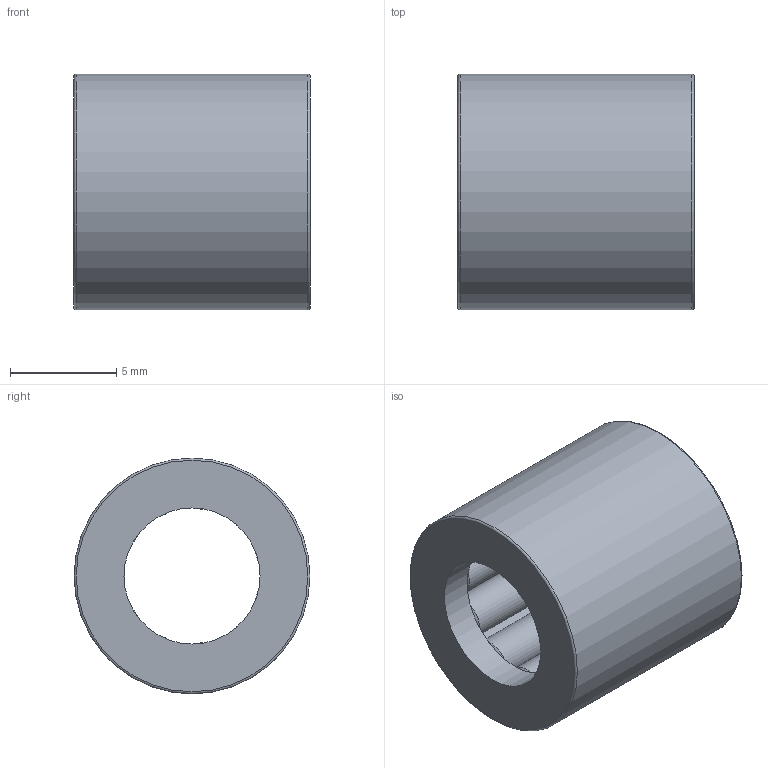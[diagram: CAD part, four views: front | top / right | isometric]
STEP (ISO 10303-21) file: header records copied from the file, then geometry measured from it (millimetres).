
FILE_DESCRIPTION(/* description */ (''),/* implementation_level */ '2;1');
FILE_NAME(/* name */ 'C:\Users\OUREHANEKD\Desktop\Ihlove loziska\F\F--\F6.35x11.11x11.13.stp',/* time_stamp */ '2016-10-11T13:20:50+02:00',/* author */ ('OUREHANEKD'),/* organization */ (''),/* preprocessor_version */ 'ST-DEVELOPER v15.6',/* originating_system */ 'Autodesk Inventor 2015',/* authorisation */ '');
FILE_SCHEMA (('AUTOMOTIVE_DESIGN { 1 0 10303 214 3 1 1 }'));
Length unit declared in the file: millimetre
Products named in the file (3): F6.35x11.11x11.13-01; F6.35x11.11x11.13-ihla; F6.35x11.11x11.13
Assembly tree (12 placements, depth 2):
  F6.35x11.11x11.13
    F6.35x11.11x11.13-01
    F6.35x11.11x11.13-ihla  x11
Bounding box: 11.13 x 11.11 x 11.11 mm (x, y, z)
Volume: 486.6 mm3; surface area: 1706.4 mm2
Topology: 12 solids, 12 shells, 46 faces, 99 edges, 57 vertices
Faces by surface type: cone 25, cylinder 15, plane 4, torus 2
Full cylindrical faces by diameter (mm): 2.047 x11, 6.413 x2, 10.443 x1, 11.11 x1
Entity records: 463 total; most frequent: DIRECTION 92, CARTESIAN_POINT 61, AXIS2_PLACEMENT_3D 46, EDGE_LOOP 30, ORIENTED_EDGE 30, FACE_OUTER_BOUND 16, ADVANCED_FACE 16, CIRCLE 15
